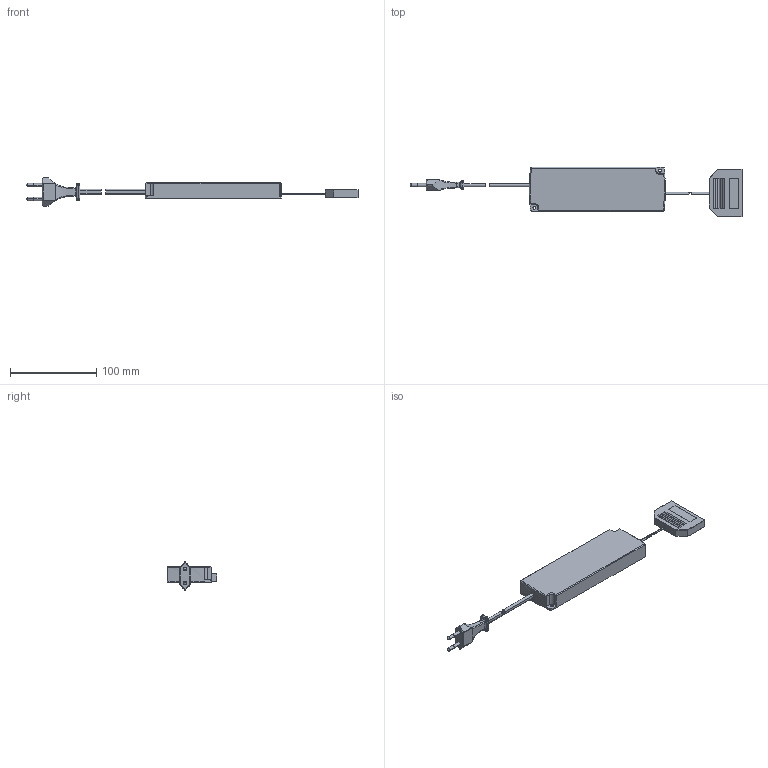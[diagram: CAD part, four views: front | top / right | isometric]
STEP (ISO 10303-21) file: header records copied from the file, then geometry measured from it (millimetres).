
FILE_DESCRIPTION (( 'STEP AP203' ), '1' );
FILE_NAME ('LED_EVG_12VDC_30W_IP44_24.STEP', '2024-12-03T11:16:20', ( '' ), ( '' ), 'SwSTEP 2.0', 'SolidWorks 2023', '' );
FILE_SCHEMA (( 'CONFIG_CONTROL_DESIGN' ));
Length unit declared in the file: millimetre
Products named in the file (4): 3101801_Pr02702_LED_EVG_12VDC_0-30W_IP44; 6fach_Verteiler_DAM2_LTG_100mm; Euroflachstecker_DAM_weiss; LED_EVG_12VDC_30W_IP44_24
Assembly tree (3 placements, depth 2):
  LED_EVG_12VDC_30W_IP44_24
    3101801_Pr02702_LED_EVG_12VDC_0-30W_IP44
    Euroflachstecker_DAM_weiss
    6fach_Verteiler_DAM2_LTG_100mm
Bounding box: 385.5 x 57.7 x 33.06 mm (x, y, z)
Volume: 169274.3 mm3; surface area: 37361.9 mm2
Topology: 6 solids, 6 shells, 522 faces, 1307 edges, 798 vertices
Faces by surface type: plane 288, cylinder 160, sphere 37, bspline 22, torus 8, cone 7
Entity records: 16400 total; most frequent: CARTESIAN_POINT 3710, DIRECTION 2566, ORIENTED_EDGE 2542, EDGE_CURVE 1271, AXIS2_PLACEMENT_3D 857, VECTOR 852, LINE 852, VERTEX_POINT 791
